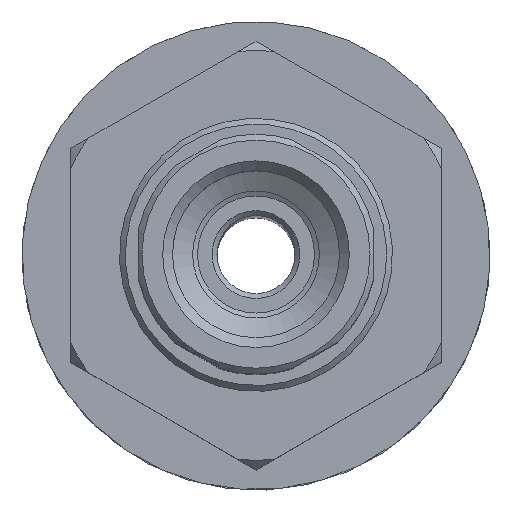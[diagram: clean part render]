
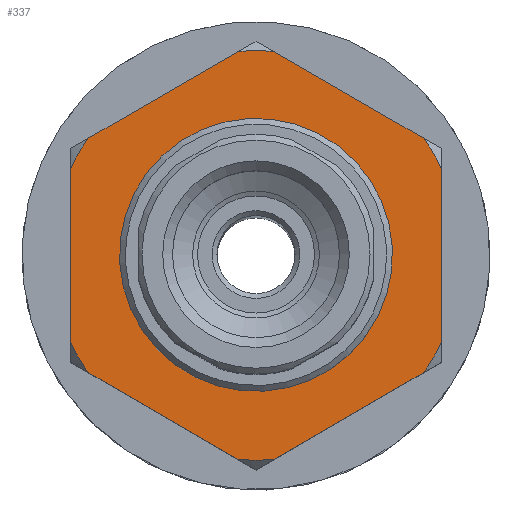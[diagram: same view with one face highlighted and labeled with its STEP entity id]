
A CAD part, top view. The second image highlights one B-rep face of the part: STEP entity #337.
In plain terms, the highlighted planar face has unit normal (0, 0, 1).
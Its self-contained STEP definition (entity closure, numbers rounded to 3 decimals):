
#337=ADVANCED_FACE('',(#653,#654),#655,.T.);
#653=FACE_BOUND('',#1040,.T.);
#654=FACE_OUTER_BOUND('',#1041,.T.);
#655=PLANE('',#1042);
#1040=EDGE_LOOP('',(#5120));
#1041=EDGE_LOOP('',(#5121,#5122,#5123,#5124,#5125,#5126,#5127,#5128,#5129,#5130,#5131,#5132));
#1042=AXIS2_PLACEMENT_3D('',#5133,#5134,#5135);
#5120=ORIENTED_EDGE('',*,*,#5914,.F.);
#5121=ORIENTED_EDGE('',*,*,#5916,.F.);
#5122=ORIENTED_EDGE('',*,*,#5849,.T.);
#5123=ORIENTED_EDGE('',*,*,#5882,.F.);
#5124=ORIENTED_EDGE('',*,*,#5911,.T.);
#5125=ORIENTED_EDGE('',*,*,#5867,.F.);
#5126=ORIENTED_EDGE('',*,*,#5902,.T.);
#5127=ORIENTED_EDGE('',*,*,#5859,.F.);
#5128=ORIENTED_EDGE('',*,*,#5890,.T.);
#5129=ORIENTED_EDGE('',*,*,#5875,.F.);
#5130=ORIENTED_EDGE('',*,*,#5885,.T.);
#5131=ORIENTED_EDGE('',*,*,#5917,.F.);
#5132=ORIENTED_EDGE('',*,*,#5894,.T.);
#5133=CARTESIAN_POINT('',(17.321,10.0,0.0));
#5134=DIRECTION('',(0.0,0.0,1.0));
#5135=DIRECTION('',(1.0,0.0,0.0));
#5849=EDGE_CURVE('',#6186,#6184,#6187,.T.);
#5859=EDGE_CURVE('',#6203,#6191,#6205,.T.);
#5867=EDGE_CURVE('',#6217,#6208,#6219,.T.);
#5875=EDGE_CURVE('',#6231,#6221,#6233,.T.);
#5882=EDGE_CURVE('',#6242,#6184,#6244,.T.);
#5885=EDGE_CURVE('',#6231,#6246,#6248,.T.);
#5890=EDGE_CURVE('',#6203,#6221,#6254,.T.);
#5894=EDGE_CURVE('',#6256,#6259,#6261,.T.);
#5902=EDGE_CURVE('',#6217,#6191,#6272,.T.);
#5911=EDGE_CURVE('',#6242,#6208,#6282,.T.);
#5914=EDGE_CURVE('',#6286,#6286,#6287,.T.);
#5916=EDGE_CURVE('',#6186,#6259,#6289,.T.);
#5917=EDGE_CURVE('',#6256,#6246,#6290,.T.);
#6184=VERTEX_POINT('',#6666);
#6186=VERTEX_POINT('',#6671);
#6187=CIRCLE('',#6672,10.499);
#6191=VERTEX_POINT('',#6679);
#6203=VERTEX_POINT('',#6703);
#6205=LINE('',#6708,#6709);
#6208=VERTEX_POINT('',#6712);
#6217=VERTEX_POINT('',#6732);
#6219=LINE('',#6737,#6738);
#6221=VERTEX_POINT('',#6740);
#6231=VERTEX_POINT('',#6761);
#6233=LINE('',#6766,#6767);
#6242=VERTEX_POINT('',#6784);
#6244=LINE('',#6789,#6790);
#6246=VERTEX_POINT('',#6792);
#6248=CIRCLE('',#6797,10.499);
#6254=CIRCLE('',#6806,10.499);
#6256=VERTEX_POINT('',#6808);
#6259=VERTEX_POINT('',#6814);
#6261=CIRCLE('',#6819,10.499);
#6272=CIRCLE('',#6836,10.499);
#6282=CIRCLE('',#6849,10.499);
#6286=VERTEX_POINT('',#6853);
#6287=CIRCLE('',#6854,6.5);
#6289=LINE('',#6856,#6857);
#6290=LINE('',#6858,#6859);
#6666=CARTESIAN_POINT('',(4.469,9.5,0.0));
#6671=CARTESIAN_POINT('',(5.997,8.617,0.0));
#6672=AXIS2_PLACEMENT_3D('',#8324,#8325,#8326);
#6679=CARTESIAN_POINT('',(-10.462,-0.879,0.0));
#6703=CARTESIAN_POINT('',(-5.993,-8.621,0.0));
#6708=CARTESIAN_POINT('',(-5.485,-9.5,0.0));
#6709=VECTOR('',#8330,1.0);
#6712=CARTESIAN_POINT('',(-5.993,8.621,0.0));
#6732=CARTESIAN_POINT('',(-10.462,0.879,0.0));
#6737=CARTESIAN_POINT('',(-10.97,0.0,0.0));
#6738=VECTOR('',#8333,1.0);
#6740=CARTESIAN_POINT('',(-4.469,-9.5,0.0));
#6761=CARTESIAN_POINT('',(4.469,-9.5,0.0));
#6766=CARTESIAN_POINT('',(5.485,-9.5,0.0));
#6767=VECTOR('',#8336,1.0);
#6784=CARTESIAN_POINT('',(-4.469,9.5,0.0));
#6789=CARTESIAN_POINT('',(-5.485,9.5,0.0));
#6790=VECTOR('',#8339,1.0);
#6792=CARTESIAN_POINT('',(5.997,-8.617,0.0));
#6797=AXIS2_PLACEMENT_3D('',#8340,#8341,#8342);
#6806=AXIS2_PLACEMENT_3D('',#8346,#8347,#8348);
#6808=CARTESIAN_POINT('',(10.457,-0.933,0.0));
#6814=CARTESIAN_POINT('',(10.457,0.933,0.0));
#6819=AXIS2_PLACEMENT_3D('',#8349,#8350,#8351);
#6836=AXIS2_PLACEMENT_3D('',#8358,#8359,#8360);
#6849=AXIS2_PLACEMENT_3D('',#8370,#8371,#8372);
#6853=CARTESIAN_POINT('',(6.5,0.0,0.0));
#6854=AXIS2_PLACEMENT_3D('',#8376,#8377,#8378);
#6856=CARTESIAN_POINT('',(5.485,9.5,0.0));
#6857=VECTOR('',#8379,1.0);
#6858=CARTESIAN_POINT('',(10.999,0.0,0.0));
#6859=VECTOR('',#8380,1.0);
#8324=CARTESIAN_POINT('',(0.0,0.0,0.0));
#8325=DIRECTION('',(0.0,0.0,1.0));
#8326=DIRECTION('',(1.0,0.0,0.0));
#8330=DIRECTION('',(-0.5,0.866,0.0));
#8333=DIRECTION('',(0.5,0.866,0.0));
#8336=DIRECTION('',(-1.0,0.0,0.0));
#8339=DIRECTION('',(1.0,0.0,0.0));
#8340=CARTESIAN_POINT('',(0.0,0.0,0.0));
#8341=DIRECTION('',(0.0,0.0,1.0));
#8342=DIRECTION('',(1.0,0.0,0.0));
#8346=CARTESIAN_POINT('',(0.0,0.0,0.0));
#8347=DIRECTION('',(0.0,0.0,1.0));
#8348=DIRECTION('',(1.0,0.0,0.0));
#8349=CARTESIAN_POINT('',(0.0,0.0,0.0));
#8350=DIRECTION('',(0.0,0.0,1.0));
#8351=DIRECTION('',(1.0,0.0,0.0));
#8358=CARTESIAN_POINT('',(0.0,0.0,0.0));
#8359=DIRECTION('',(0.0,0.0,1.0));
#8360=DIRECTION('',(1.0,0.0,0.0));
#8370=CARTESIAN_POINT('',(0.0,0.0,0.0));
#8371=DIRECTION('',(0.0,0.0,1.0));
#8372=DIRECTION('',(1.0,0.0,0.0));
#8376=CARTESIAN_POINT('',(0.,0.0,0.0));
#8377=DIRECTION('',(0.0,0.0,1.0));
#8378=DIRECTION('',(1.0,0.0,0.0));
#8379=DIRECTION('',(0.502,-0.865,0.0));
#8380=DIRECTION('',(-0.502,-0.865,0.0));
